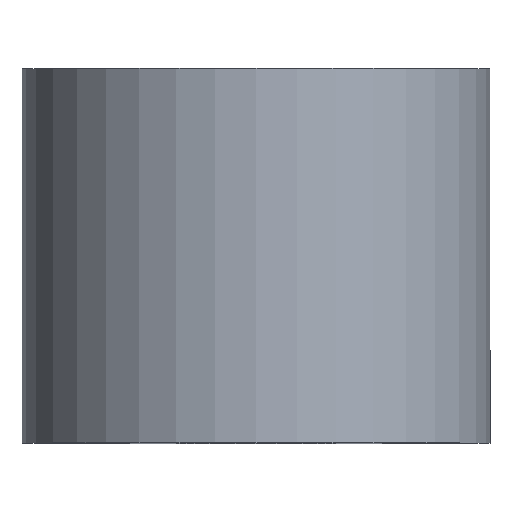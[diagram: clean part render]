
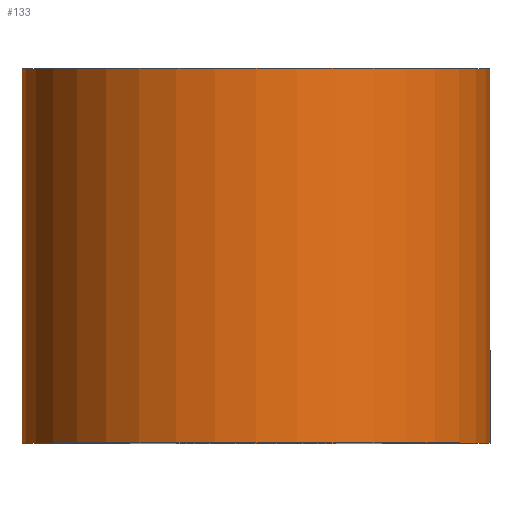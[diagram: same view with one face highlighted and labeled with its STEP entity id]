
A CAD part, top view. The second image highlights one B-rep face of the part: STEP entity #133.
In plain terms, the highlighted cylindrical face has radius 25 mm (diameter 50 mm), a partial arc.
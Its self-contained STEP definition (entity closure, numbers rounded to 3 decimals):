
#16 = ORIENTED_EDGE ( 'NONE', *, *, #874, .F. ) ;
#29 = VECTOR ( 'NONE', #905, 1000. ) ;
#34 = FACE_OUTER_BOUND ( 'NONE', #118, .T. ) ;
#60 = CIRCLE ( 'NONE', #564, 25. ) ;
#62 = DIRECTION ( 'NONE',  ( -1., 0., 0. ) ) ;
#110 = CIRCLE ( 'NONE', #503, 25. ) ;
#118 = EDGE_LOOP ( 'NONE', ( #417, #824, #16, #220 ) ) ;
#133 = ADVANCED_FACE ( 'NONE', ( #34 ), #556, .T. ) ;
#146 = CARTESIAN_POINT ( 'NONE',  ( -25., -20., 0. ) ) ;
#220 = ORIENTED_EDGE ( 'NONE', *, *, #775, .F. ) ;
#227 = DIRECTION ( 'NONE',  ( 0., 1., 0. ) ) ;
#251 = DIRECTION ( 'NONE',  ( 0., 1., 0. ) ) ;
#287 = EDGE_CURVE ( 'NONE', #483, #630, #60, .T. ) ;
#288 = CARTESIAN_POINT ( 'NONE',  ( 0., -20., 0. ) ) ;
#368 = CARTESIAN_POINT ( 'NONE',  ( 25., -20., 0. ) ) ;
#401 = EDGE_CURVE ( 'NONE', #630, #506, #514, .T. ) ;
#405 = CARTESIAN_POINT ( 'NONE',  ( 25., 20., 0. ) ) ;
#417 = ORIENTED_EDGE ( 'NONE', *, *, #287, .T. ) ;
#457 = VECTOR ( 'NONE', #227, 1000. ) ;
#481 = DIRECTION ( 'NONE',  ( 0., 1., 0. ) ) ;
#483 = VERTEX_POINT ( 'NONE', #146 ) ;
#503 = AXIS2_PLACEMENT_3D ( 'NONE', #924, #251, #548 ) ;
#506 = VERTEX_POINT ( 'NONE', #405 ) ;
#514 = LINE ( 'NONE', #895, #457 ) ;
#515 = AXIS2_PLACEMENT_3D ( 'NONE', #857, #481, #776 ) ;
#536 = LINE ( 'NONE', #601, #29 ) ;
#548 = DIRECTION ( 'NONE',  ( -1., 0., 0. ) ) ;
#556 = CYLINDRICAL_SURFACE ( 'NONE', #515, 25. ) ;
#564 = AXIS2_PLACEMENT_3D ( 'NONE', #288, #881, #62 ) ;
#601 = CARTESIAN_POINT ( 'NONE',  ( -25., 0., 0. ) ) ;
#630 = VERTEX_POINT ( 'NONE', #368 ) ;
#775 = EDGE_CURVE ( 'NONE', #483, #805, #536, .T. ) ;
#776 = DIRECTION ( 'NONE',  ( -1., 0., 0. ) ) ;
#805 = VERTEX_POINT ( 'NONE', #833 ) ;
#824 = ORIENTED_EDGE ( 'NONE', *, *, #401, .T. ) ;
#833 = CARTESIAN_POINT ( 'NONE',  ( -25., 20., 0. ) ) ;
#857 = CARTESIAN_POINT ( 'NONE',  ( 0., 0., 0. ) ) ;
#874 = EDGE_CURVE ( 'NONE', #805, #506, #110, .T. ) ;
#881 = DIRECTION ( 'NONE',  ( 0., 1., 0. ) ) ;
#895 = CARTESIAN_POINT ( 'NONE',  ( 25., 0., 0. ) ) ;
#905 = DIRECTION ( 'NONE',  ( 0., 1., 0. ) ) ;
#924 = CARTESIAN_POINT ( 'NONE',  ( 0., 20., 0. ) ) ;
